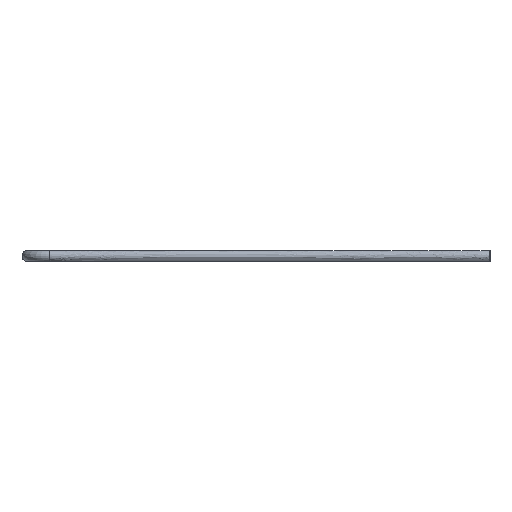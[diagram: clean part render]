
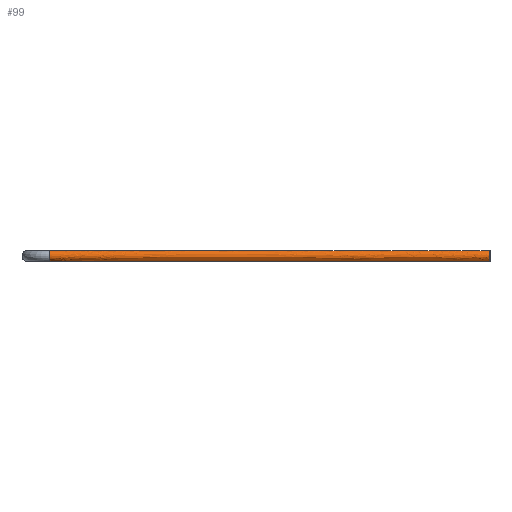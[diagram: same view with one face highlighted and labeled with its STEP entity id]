
A CAD part, left-side view. The second image highlights one B-rep face of the part: STEP entity #99.
In plain terms, the highlighted free-form (B-spline) face has degree [4, 3] with [14, 5] control points.
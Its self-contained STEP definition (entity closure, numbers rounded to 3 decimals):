
#45=CIRCLE('',#648,2.5);
#99=ADVANCED_FACE('',(#255,#256),#151,.F.);
#151=(
BOUNDED_SURFACE()
B_SPLINE_SURFACE(4,3,((#6693,#6694,#6695,#6696,#6697),(#6698,#6699,#6700,
#6701,#6702),(#6703,#6704,#6705,#6706,#6707),(#6708,#6709,#6710,#6711,#6712),
(#6713,#6714,#6715,#6716,#6717),(#6718,#6719,#6720,#6721,#6722),(#6723,
#6724,#6725,#6726,#6727),(#6728,#6729,#6730,#6731,#6732),(#6733,#6734,#6735,
#6736,#6737),(#6738,#6739,#6740,#6741,#6742),(#6743,#6744,#6745,#6746,#6747),
(#6748,#6749,#6750,#6751,#6752),(#6753,#6754,#6755,#6756,#6757),(#6758,
#6759,#6760,#6761,#6762)),.UNSPECIFIED.,.T.,.F.,.F.)
B_SPLINE_SURFACE_WITH_KNOTS((2,3,3,3,3,3,2),(4,1,4),(-0.25,0.,0.25,0.5,
0.75,1.,1.25),(0.,0.972,1.),.UNSPECIFIED.)
GEOMETRIC_REPRESENTATION_ITEM()
RATIONAL_B_SPLINE_SURFACE(((1.017,1.017,1.017,
1.017,1.017),(1.017,1.017,1.017,
1.017,1.017),(0.958,0.958,
0.958,0.958,0.958),(1.017,
1.017,1.017,1.017,1.017),(1.017,
1.017,1.017,1.017,1.017),(0.958,
0.958,0.958,0.958,0.958),
(1.017,1.017,1.017,1.017,1.017),
(1.017,1.017,1.017,1.017,1.017),
(0.958,0.958,0.958,0.958,
0.958),(1.017,1.017,1.017,1.017,
1.017),(1.017,1.017,1.017,1.017,
1.017),(0.958,0.958,0.958,
0.958,0.958),(1.017,1.017,
1.017,1.017,1.017),(1.017,1.017,
1.017,1.017,1.017)))
REPRESENTATION_ITEM('')
SURFACE()
);
#255=FACE_BOUND('',#361,.T.);
#256=FACE_BOUND('',#362,.T.);
#361=EDGE_LOOP('',(#467));
#362=EDGE_LOOP('',(#468));
#467=ORIENTED_EDGE('',*,*,#574,.T.);
#468=ORIENTED_EDGE('',*,*,#573,.T.);
#520=VERTEX_POINT('',#6577);
#521=VERTEX_POINT('',#6691);
#573=EDGE_CURVE('',#520,#520,#624,.T.);
#574=EDGE_CURVE('',#521,#521,#45,.T.);
#624=(
BOUNDED_CURVE()
B_SPLINE_CURVE(4,(#6563,#6564,#6565,#6566,#6567,#6568,#6569,#6570,#6571,
#6572,#6573,#6574,#6575,#6576),.UNSPECIFIED.,.T.,.F.)
B_SPLINE_CURVE_WITH_KNOTS((2,3,3,3,3,3,2),(-0.25,0.,0.25,0.5,0.75,1.,1.25),
 .UNSPECIFIED.)
CURVE()
GEOMETRIC_REPRESENTATION_ITEM()
RATIONAL_B_SPLINE_CURVE((1.017,1.017,0.958,
1.017,1.017,0.958,1.017,1.017,
0.958,1.017,1.017,0.958,1.017,
1.017))
REPRESENTATION_ITEM('')
);
#648=AXIS2_PLACEMENT_3D('',#6690,#662,#663);
#662=DIRECTION('',(0.,1.,0.));
#663=DIRECTION('',(0.,0.,-1.));
#6563=CARTESIAN_POINT('',(-0.856,200.685,-2.5));
#6564=CARTESIAN_POINT('',(0.901,200.602,-2.5));
#6565=CARTESIAN_POINT('',(2.068,200.547,-2.058));
#6566=CARTESIAN_POINT('',(2.508,200.526,-0.884));
#6567=CARTESIAN_POINT('',(2.508,200.526,0.884));
#6568=CARTESIAN_POINT('',(2.068,200.547,2.058));
#6569=CARTESIAN_POINT('',(0.901,200.602,2.5));
#6570=CARTESIAN_POINT('',(-0.856,200.685,2.5));
#6571=CARTESIAN_POINT('',(-2.023,200.74,2.058));
#6572=CARTESIAN_POINT('',(-2.462,200.761,0.884));
#6573=CARTESIAN_POINT('',(-2.462,200.761,-0.884));
#6574=CARTESIAN_POINT('',(-2.023,200.74,-2.058));
#6575=CARTESIAN_POINT('',(-0.856,200.685,-2.5));
#6576=CARTESIAN_POINT('',(0.901,200.602,-2.5));
#6577=CARTESIAN_POINT('',(0.023,200.643,-2.5));
#6690=CARTESIAN_POINT('',(0.,0.,0.));
#6691=CARTESIAN_POINT('',(0.,0.,-2.5));
#6693=CARTESIAN_POINT('',(-0.884,0.,-2.5));
#6694=CARTESIAN_POINT('',(-0.902,28.895,-2.5));
#6695=CARTESIAN_POINT('',(-0.857,140.998,-2.5));
#6696=CARTESIAN_POINT('',(-0.897,199.184,-2.5));
#6697=CARTESIAN_POINT('',(-0.856,200.685,-2.5));
#6698=CARTESIAN_POINT('',(0.884,0.,-2.5));
#6699=CARTESIAN_POINT('',(0.875,28.934,-2.5));
#6700=CARTESIAN_POINT('',(0.897,140.94,-2.5));
#6701=CARTESIAN_POINT('',(0.877,199.213,-2.5));
#6702=CARTESIAN_POINT('',(0.901,200.602,-2.5));
#6703=CARTESIAN_POINT('',(2.058,0.,-2.058));
#6704=CARTESIAN_POINT('',(2.055,28.959,-2.058));
#6705=CARTESIAN_POINT('',(2.062,140.901,-2.058));
#6706=CARTESIAN_POINT('',(2.056,199.232,-2.058));
#6707=CARTESIAN_POINT('',(2.068,200.547,-2.058));
#6708=CARTESIAN_POINT('',(2.5,0.,-0.884));
#6709=CARTESIAN_POINT('',(2.5,28.968,-0.884));
#6710=CARTESIAN_POINT('',(2.501,140.887,-0.884));
#6711=CARTESIAN_POINT('',(2.5,199.239,-0.884));
#6712=CARTESIAN_POINT('',(2.508,200.526,-0.884));
#6713=CARTESIAN_POINT('',(2.5,0.,0.884));
#6714=CARTESIAN_POINT('',(2.5,28.968,0.884));
#6715=CARTESIAN_POINT('',(2.501,140.887,0.884));
#6716=CARTESIAN_POINT('',(2.5,199.239,0.884));
#6717=CARTESIAN_POINT('',(2.508,200.526,0.884));
#6718=CARTESIAN_POINT('',(2.058,0.,2.058));
#6719=CARTESIAN_POINT('',(2.055,28.959,2.058));
#6720=CARTESIAN_POINT('',(2.062,140.901,2.058));
#6721=CARTESIAN_POINT('',(2.056,199.232,2.058));
#6722=CARTESIAN_POINT('',(2.068,200.547,2.058));
#6723=CARTESIAN_POINT('',(0.884,0.,2.5));
#6724=CARTESIAN_POINT('',(0.875,28.934,2.5));
#6725=CARTESIAN_POINT('',(0.897,140.94,2.5));
#6726=CARTESIAN_POINT('',(0.877,199.213,2.5));
#6727=CARTESIAN_POINT('',(0.901,200.602,2.5));
#6728=CARTESIAN_POINT('',(-0.884,0.,2.5));
#6729=CARTESIAN_POINT('',(-0.902,28.895,2.5));
#6730=CARTESIAN_POINT('',(-0.857,140.998,2.5));
#6731=CARTESIAN_POINT('',(-0.897,199.184,2.5));
#6732=CARTESIAN_POINT('',(-0.856,200.685,2.5));
#6733=CARTESIAN_POINT('',(-2.058,0.,2.058));
#6734=CARTESIAN_POINT('',(-2.082,28.87,2.058));
#6735=CARTESIAN_POINT('',(-2.022,141.036,2.058));
#6736=CARTESIAN_POINT('',(-2.076,199.165,2.058));
#6737=CARTESIAN_POINT('',(-2.023,200.74,2.058));
#6738=CARTESIAN_POINT('',(-2.5,0.,0.884));
#6739=CARTESIAN_POINT('',(-2.526,28.86,0.884));
#6740=CARTESIAN_POINT('',(-2.461,141.051,0.884));
#6741=CARTESIAN_POINT('',(-2.519,199.158,0.884));
#6742=CARTESIAN_POINT('',(-2.462,200.761,0.884));
#6743=CARTESIAN_POINT('',(-2.5,0.,-0.884));
#6744=CARTESIAN_POINT('',(-2.526,28.86,-0.884));
#6745=CARTESIAN_POINT('',(-2.461,141.051,-0.884));
#6746=CARTESIAN_POINT('',(-2.519,199.158,-0.884));
#6747=CARTESIAN_POINT('',(-2.462,200.761,-0.884));
#6748=CARTESIAN_POINT('',(-2.058,0.,-2.058));
#6749=CARTESIAN_POINT('',(-2.082,28.87,-2.058));
#6750=CARTESIAN_POINT('',(-2.022,141.036,-2.058));
#6751=CARTESIAN_POINT('',(-2.076,199.165,-2.058));
#6752=CARTESIAN_POINT('',(-2.023,200.74,-2.058));
#6753=CARTESIAN_POINT('',(-0.884,0.,-2.5));
#6754=CARTESIAN_POINT('',(-0.902,28.895,-2.5));
#6755=CARTESIAN_POINT('',(-0.857,140.998,-2.5));
#6756=CARTESIAN_POINT('',(-0.897,199.184,-2.5));
#6757=CARTESIAN_POINT('',(-0.856,200.685,-2.5));
#6758=CARTESIAN_POINT('',(0.884,0.,-2.5));
#6759=CARTESIAN_POINT('',(0.875,28.934,-2.5));
#6760=CARTESIAN_POINT('',(0.897,140.94,-2.5));
#6761=CARTESIAN_POINT('',(0.877,199.213,-2.5));
#6762=CARTESIAN_POINT('',(0.901,200.602,-2.5));
